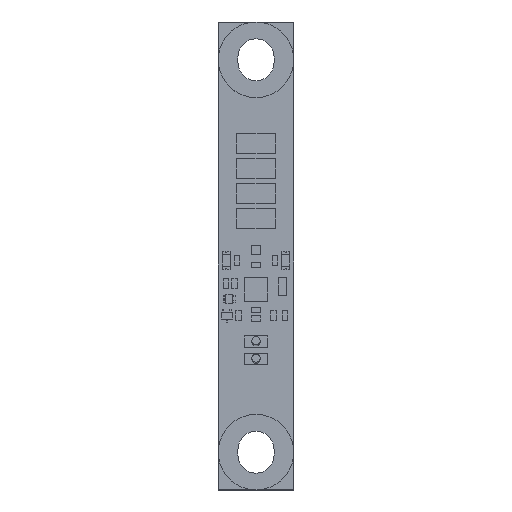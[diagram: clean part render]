
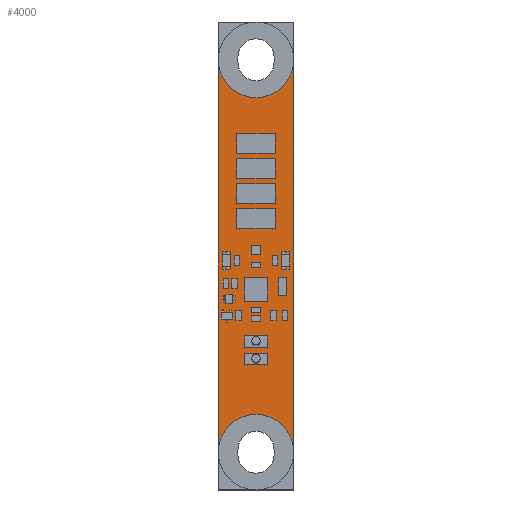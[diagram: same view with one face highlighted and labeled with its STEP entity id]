
A CAD part, top view. The second image highlights one B-rep face of the part: STEP entity #4000.
In plain terms, the highlighted planar face has unit normal (0, 0, 1).
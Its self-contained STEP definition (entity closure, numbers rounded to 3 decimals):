
#15=FACE_BOUND('',#608,.T.);
#16=FACE_BOUND('',#609,.T.);
#25=CIRCLE('',#4283,6.5);
#32=CIRCLE('',#4298,6.5);
#357=FACE_OUTER_BOUND('',#607,.T.);
#607=EDGE_LOOP('',(#3434,#3435,#3436,#3437));
#608=EDGE_LOOP('',(#3438,#3439,#3440,#3441));
#609=EDGE_LOOP('',(#3442,#3443,#3444,#3445));
#1055=LINE('',#6301,#1551);
#1059=LINE('',#6309,#1555);
#1062=LINE('',#6315,#1558);
#1065=LINE('',#6320,#1561);
#1077=LINE('',#6359,#1573);
#1081=LINE('',#6367,#1577);
#1084=LINE('',#6373,#1580);
#1087=LINE('',#6378,#1583);
#1109=LINE('',#6440,#1605);
#1110=LINE('',#6441,#1606);
#1551=VECTOR('',#5173,10.);
#1555=VECTOR('',#5179,10.);
#1558=VECTOR('',#5184,10.);
#1561=VECTOR('',#5189,10.);
#1573=VECTOR('',#5229,10.);
#1577=VECTOR('',#5235,10.);
#1580=VECTOR('',#5240,10.);
#1583=VECTOR('',#5245,10.);
#1605=VECTOR('',#5311,1.);
#1606=VECTOR('',#5312,1.);
#1907=VERTEX_POINT('',#6299);
#1908=VERTEX_POINT('',#6300);
#1911=VERTEX_POINT('',#6308);
#1913=VERTEX_POINT('',#6314);
#1918=VERTEX_POINT('',#6329);
#1919=VERTEX_POINT('',#6333);
#1926=VERTEX_POINT('',#6357);
#1927=VERTEX_POINT('',#6358);
#1930=VERTEX_POINT('',#6366);
#1932=VERTEX_POINT('',#6372);
#1934=VERTEX_POINT('',#6382);
#1938=VERTEX_POINT('',#6391);
#2388=EDGE_CURVE('',#1907,#1908,#1055,.T.);
#2392=EDGE_CURVE('',#1911,#1907,#1059,.T.);
#2395=EDGE_CURVE('',#1913,#1911,#1062,.T.);
#2398=EDGE_CURVE('',#1908,#1913,#1065,.T.);
#2410=EDGE_CURVE('',#1918,#1919,#25,.T.);
#2418=EDGE_CURVE('',#1926,#1927,#1077,.T.);
#2422=EDGE_CURVE('',#1930,#1926,#1081,.T.);
#2425=EDGE_CURVE('',#1932,#1930,#1084,.T.);
#2428=EDGE_CURVE('',#1927,#1932,#1087,.T.);
#2437=EDGE_CURVE('',#1938,#1934,#32,.T.);
#2460=EDGE_CURVE('',#1938,#1919,#1109,.T.);
#2461=EDGE_CURVE('',#1918,#1934,#1110,.T.);
#3434=ORIENTED_EDGE('',*,*,#2410,.T.);
#3435=ORIENTED_EDGE('',*,*,#2460,.F.);
#3436=ORIENTED_EDGE('',*,*,#2437,.T.);
#3437=ORIENTED_EDGE('',*,*,#2461,.F.);
#3438=ORIENTED_EDGE('',*,*,#2418,.T.);
#3439=ORIENTED_EDGE('',*,*,#2428,.T.);
#3440=ORIENTED_EDGE('',*,*,#2425,.T.);
#3441=ORIENTED_EDGE('',*,*,#2422,.T.);
#3442=ORIENTED_EDGE('',*,*,#2388,.T.);
#3443=ORIENTED_EDGE('',*,*,#2398,.T.);
#3444=ORIENTED_EDGE('',*,*,#2395,.T.);
#3445=ORIENTED_EDGE('',*,*,#2392,.T.);
#3758=PLANE('',#4313);
#4000=ADVANCED_FACE('',(#357,#15,#16),#3758,.T.);
#4283=AXIS2_PLACEMENT_3D('',#6343,#5213,#5214);
#4298=AXIS2_PLACEMENT_3D('',#6396,#5263,#5264);
#4313=AXIS2_PLACEMENT_3D('',#6439,#5309,#5310);
#5173=DIRECTION('',(0.,-1.,0.));
#5179=DIRECTION('',(1.,0.,0.));
#5184=DIRECTION('',(0.,1.,0.));
#5189=DIRECTION('',(-1.,0.,0.));
#5213=DIRECTION('center_axis',(0.,0.,-1.));
#5214=DIRECTION('ref_axis',(1.,0.,0.));
#5229=DIRECTION('',(0.,1.,0.));
#5235=DIRECTION('',(-1.,0.,0.));
#5240=DIRECTION('',(0.,-1.,0.));
#5245=DIRECTION('',(1.,0.,0.));
#5263=DIRECTION('center_axis',(0.,0.,-1.));
#5264=DIRECTION('ref_axis',(1.,0.,0.));
#5309=DIRECTION('center_axis',(0.,0.,1.));
#5310=DIRECTION('ref_axis',(1.,0.,0.));
#5311=DIRECTION('',(0.,1.,0.));
#5312=DIRECTION('',(0.,-1.,0.));
#6299=CARTESIAN_POINT('',(8.5,23.5,0.));
#6300=CARTESIAN_POINT('',(8.5,21.5,0.));
#6301=CARTESIAN_POINT('',(8.5,11.75,0.));
#6308=CARTESIAN_POINT('',(4.5,23.5,0.));
#6309=CARTESIAN_POINT('',(2.25,23.5,0.));
#6314=CARTESIAN_POINT('',(4.5,21.5,0.));
#6315=CARTESIAN_POINT('',(4.5,10.75,0.));
#6320=CARTESIAN_POINT('',(4.25,21.5,0.));
#6329=CARTESIAN_POINT('',(13.,74.,0.));
#6333=CARTESIAN_POINT('',(0.,74.001,0.));
#6343=CARTESIAN_POINT('Origin',(6.5,74.,0.));
#6357=CARTESIAN_POINT('',(4.5,24.5,0.));
#6358=CARTESIAN_POINT('',(4.5,26.5,0.));
#6359=CARTESIAN_POINT('',(4.5,12.25,0.));
#6366=CARTESIAN_POINT('',(8.5,24.5,0.));
#6367=CARTESIAN_POINT('',(4.25,24.5,0.));
#6372=CARTESIAN_POINT('',(8.5,26.5,0.));
#6373=CARTESIAN_POINT('',(8.5,13.25,0.));
#6378=CARTESIAN_POINT('',(2.25,26.5,0.));
#6382=CARTESIAN_POINT('',(13.,6.5,0.));
#6391=CARTESIAN_POINT('',(0.,6.5,0.));
#6396=CARTESIAN_POINT('Origin',(6.5,6.5,0.));
#6439=CARTESIAN_POINT('Origin',(0.,0.,0.));
#6440=CARTESIAN_POINT('',(0.,0.,0.));
#6441=CARTESIAN_POINT('',(13.,80.5,0.));
